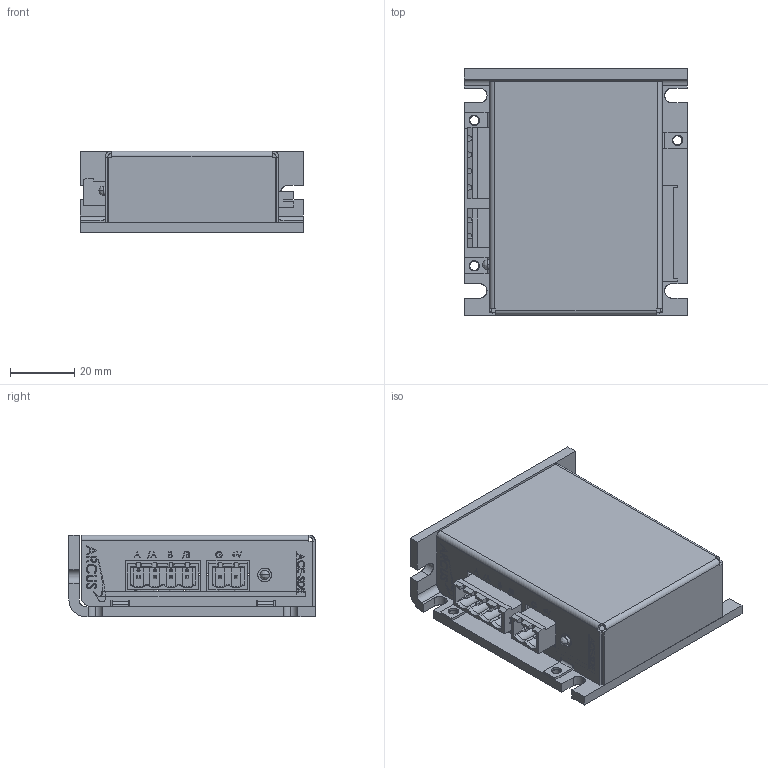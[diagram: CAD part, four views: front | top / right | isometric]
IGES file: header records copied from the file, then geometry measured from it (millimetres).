
Start section: SolidWorks IGES file using analytic representation for surfaces
Global section: file name: C:\Users\IEUser\Documents\Christine folder\Arcus\Project #27 ACE Drawings\ACE-SDE\ACE-SDE.IGS; native system: SolidWorks 2008; preprocessor: SolidWorks 2008; author: IEUser; date: 140905.103218; units: inch
Bounding box: 69.85 x 76.83 x 25.4 mm (x, y, z)
Surface area: 43068.3 mm2 (no closed solid volume)
Topology: 0 solids, 0 shells, 3186 faces, 23419 edges, 23395 vertices
Faces by surface type: bspline 2840, revolution 346
